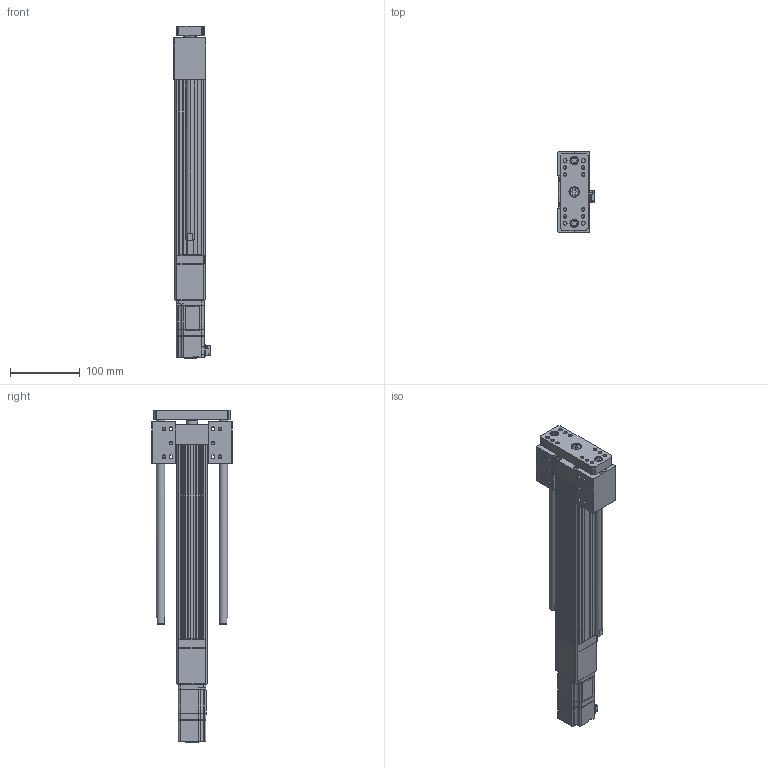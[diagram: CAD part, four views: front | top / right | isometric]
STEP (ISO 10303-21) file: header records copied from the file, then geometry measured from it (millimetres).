
FILE_DESCRIPTION (( 'STEP AP203' ), '1' );
FILE_NAME ('ANS045-HS200-05(10)-W10.STEP', '2019-02-14T03:00:43', ( 'user' ), ( '' ), 'SwSTEP 2.0', 'SolidWorks 2013', '' );
FILE_SCHEMA (( 'CONFIG_CONTROL_DESIGN' ));
Length unit declared in the file: millimetre
Products named in the file (4): ANS045 HS200 VER2; ANS045 ROD ST200 H; SGMJV_01A_A21; ANS045-HS200-05(10)-W10
Assembly tree (3 placements, depth 2):
  ANS045-HS200-05(10)-W10
    ANS045 HS200 VER2
    ANS045 ROD ST200 H
    SGMJV_01A_A21
Bounding box: 52.3 x 115 x 476.1 mm (x, y, z)
Volume: 908235.1 mm3; surface area: 251334.2 mm2
Topology: 3 solids, 7 shells, 1067 faces, 2681 edges, 1678 vertices
Faces by surface type: plane 542, cylinder 373, cone 150, bspline 2
Entity records: 31939 total; most frequent: CARTESIAN_POINT 5908, DIRECTION 5389, ORIENTED_EDGE 5290, EDGE_CURVE 2645, AXIS2_PLACEMENT_3D 1825, VECTOR 1739, LINE 1739, VERTEX_POINT 1678
